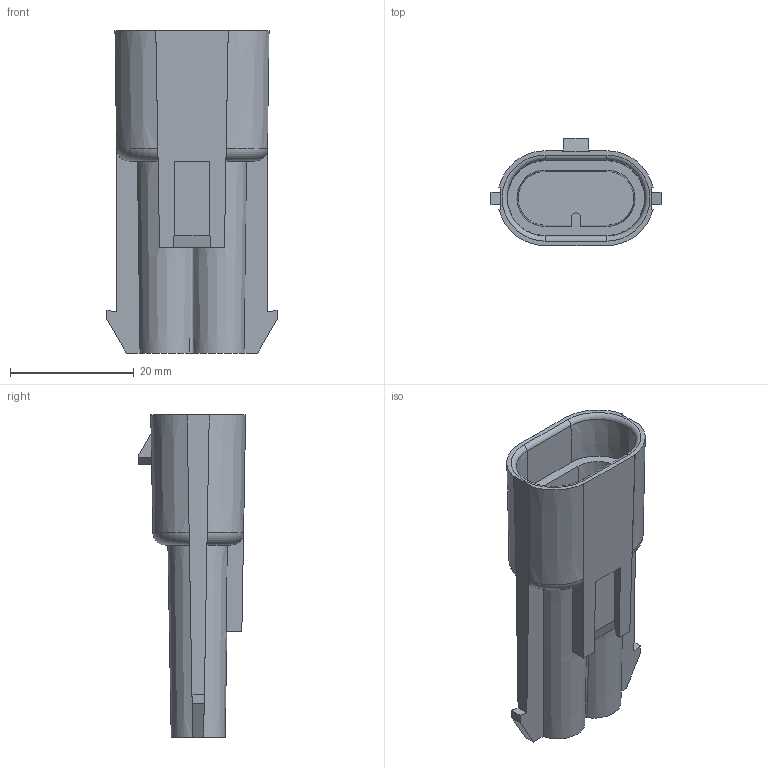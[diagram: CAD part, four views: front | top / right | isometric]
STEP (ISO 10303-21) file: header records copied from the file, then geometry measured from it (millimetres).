
FILE_DESCRIPTION(/* description */ (''),/* implementation_level */ '2;1');
FILE_NAME(/* name */ '12084166-ENV1103.stp',/* time_stamp */ '2019-07-24T18:02:04+06:00',/* author */ (''),/* organization */ (''),/* preprocessor_version */ 'ST-DEVELOPER v16',/* originating_system */ 'SIEMENS PLM Software NX 11.0',/* authorisation */ '');
FILE_SCHEMA (('AUTOMOTIVE_DESIGN { 1 0 10303 214 3 1 1 1 }'));
Length unit declared in the file: millimetre
Products named in the file (1): 12084166-ENV11_03-CONN
Bounding box: 27.45 x 17.31 x 52 mm (x, y, z)
Volume: 8054.1 mm3; surface area: 5145.5 mm2
Topology: 1 solids, 1 shells, 82 faces, 216 edges, 138 vertices
Faces by surface type: plane 57, cone 12, torus 6, cylinder 5, bspline 2
Entity records: 2734 total; most frequent: CARTESIAN_POINT 717, ORIENTED_EDGE 432, DIRECTION 390, EDGE_CURVE 216, LINE 144, VECTOR 144, VERTEX_POINT 138, AXIS2_PLACEMENT_3D 123
